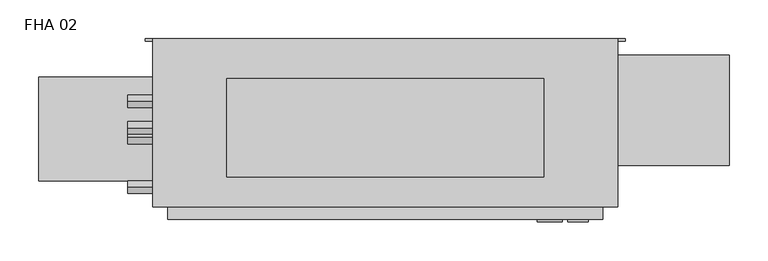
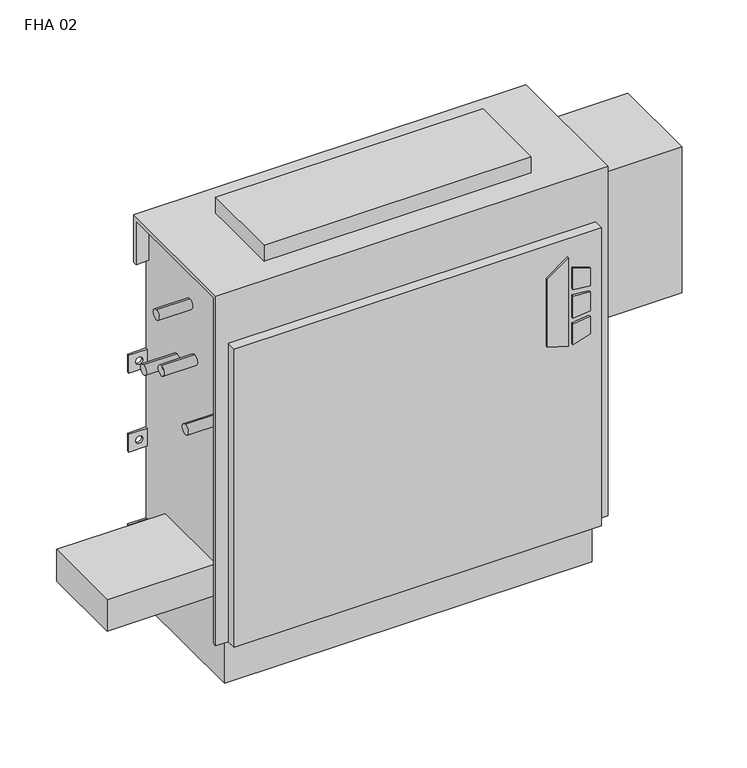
"""IFC4 building model written with IfcOpenShell, lengths in millimetres: proxy geometry, Vertical_Fan_Coil_Unit_-_FHA_-_IEC_-_4-Pipe_TS-FR_LH_2022 : FHA 02."""

from ifc_helpers import new_model, si_unit, point, frame, frame_2d, origin, place, context, project, spatial, polyline, circle_curve, trimmed, segment, composite_curve, outline, extrude, source, transform, mapped, element, save
from ifc_brep_helpers import plane_surface, revolved_surface, advanced_brep


def fha_02_802e25d1(model_context):
    return source(origin(), model_context, "Body", "SolidModel", [
        extrude(outline(polyline([(391.6086829, 347.7368862), (381.6606126, 379.9102728), (523.831537, 379.9102728), (500.8095309, 347.7368862), (391.6086829, 347.7368862)])), frame((0.0, 9.525, 0.0), z_axis=(0.0, 1.0, 0.0), x_axis=(0.0, 0.0, 1.0)), (0.0, 0.0, 1.0), 3.175),
        extrude(outline(polyline([(470.6079683, 386.6686058), (467.4055757, 412.75), (496.6344168, 412.75), (504.6988318, 386.6686058), (470.6079683, 386.6686058)])), frame((0.0, 9.525, 0.0), z_axis=(0.0, 1.0, 0.0), x_axis=(0.0, 0.0, 1.0)), (0.0, 0.0, 1.0), 3.175),
        extrude(outline(polyline([(418.7444414, 412.75), (415.0789404, 386.6686058), (381.6606126, 386.6686058), (390.2948498, 412.75), (418.7444414, 412.75)])), frame((0.0, 9.525, 0.0), z_axis=(0.0, 1.0, 0.0), x_axis=(0.0, 0.0, 1.0)), (0.0, 0.0, 1.0), 3.175),
        extrude(outline(polyline([(458.0596028, 412.75), (460.3414292, 386.6686058), (424.4038806, 386.6686058), (427.1451456, 412.75), (458.0596028, 412.75)])), frame((0.0, 9.525, 0.0), z_axis=(0.0, 1.0, 0.0), x_axis=(0.0, 0.0, 1.0)), (0.0, 0.0, 1.0), 3.175),
        extrude(outline(composite_curve([segment(trimmed(circle_curve(frame_2d((-190.5, 128.5875)), 9.525), [point((-200.025, 128.5875))], [point((-180.975, 128.5875))], False, "CARTESIAN"), True, "CONTINUOUS"), segment(trimmed(circle_curve(frame_2d((-190.5, 128.5875)), 9.525), [point((-180.975, 128.5875))], [point((-200.025, 128.5875))], False, "CARTESIAN"), True, "CONTINUOUS")], self_intersect=False)), frame((0.0, 0.0, 101.6), z_axis=(0.0, 0.0, 1.0), x_axis=(1.0, 0.0, 0.0)), (0.0, 0.0, 1.0), 25.4),
        extrude(outline(polyline([(-292.1, 61.9125), (-292.1, 195.2625), (-127.0, 195.2625), (-127.0, 61.9125), (-292.1, 61.9125)])), frame((0.0, 0.0, 127.0), z_axis=(0.0, 0.0, 1.0), x_axis=(1.0, 0.0, 0.0)), (0.0, 0.0, 1.0), 50.8),
        extrude(outline(polyline([(355.6, 193.675), (355.6, 66.675), (-50.8, 66.675), (-50.8, 193.675), (355.6, 193.675)])), frame((0.0, 0.0, 635.0), z_axis=(0.0, 0.0, 1.0), x_axis=(1.0, 0.0, 0.0)), (0.0, 0.0, 1.0), 25.4),
        extrude(outline(composite_curve([segment(trimmed(circle_curve(frame_2d((117.475, 472.44)), 7.9375), [point((117.475, 480.3775))], [point((117.475, 464.5025))], False, "CARTESIAN"), True, "CONTINUOUS"), segment(trimmed(circle_curve(frame_2d((117.475, 472.44)), 7.9375), [point((117.475, 464.5025))], [point((117.475, 480.3775))], False, "CARTESIAN"), True, "CONTINUOUS")], self_intersect=False)), frame((-177.8, 0.0, 0.0), z_axis=(1.0, 0.0, 0.0), x_axis=(0.0, 1.0, 0.0)), (0.0, 0.0, 1.0), 50.8),
        extrude(outline(composite_curve([segment(trimmed(circle_curve(frame_2d((164.0586, 445.897)), 7.9375), [point((164.0586, 453.8345))], [point((164.0586, 437.9595))], False, "CARTESIAN"), True, "CONTINUOUS"), segment(trimmed(circle_curve(frame_2d((164.0586, 445.897)), 7.9375), [point((164.0586, 437.9595))], [point((164.0586, 453.8345))], False, "CARTESIAN"), True, "CONTINUOUS")], self_intersect=False)), frame((-177.8, 0.0, 0.0), z_axis=(1.0, 0.0, 0.0), x_axis=(0.0, 1.0, 0.0)), (0.0, 0.0, 1.0), 50.8),
        extrude(outline(composite_curve([segment(trimmed(circle_curve(frame_2d((130.175, 554.99)), 7.9502), [point((130.175, 562.9402))], [point((130.175, 547.0398))], False, "CARTESIAN"), True, "CONTINUOUS"), segment(trimmed(circle_curve(frame_2d((130.175, 554.99)), 7.9502), [point((130.175, 547.0398))], [point((130.175, 562.9402))], False, "CARTESIAN"), True, "CONTINUOUS")], self_intersect=False)), frame((-177.8, 0.0, 0.0), z_axis=(1.0, 0.0, 0.0), x_axis=(0.0, 1.0, 0.0)), (0.0, 0.0, 1.0), 50.8),
        extrude(outline(composite_curve([segment(trimmed(circle_curve(frame_2d((53.975, 416.56)), 7.9502), [point((53.975, 424.5102))], [point((53.975, 408.6098))], False, "CARTESIAN"), True, "CONTINUOUS"), segment(trimmed(circle_curve(frame_2d((53.975, 416.56)), 7.9502), [point((53.975, 408.6098))], [point((53.975, 424.5102))], False, "CARTESIAN"), True, "CONTINUOUS")], self_intersect=False)), frame((-177.8, 0.0, 0.0), z_axis=(1.0, 0.0, 0.0), x_axis=(0.0, 1.0, 0.0)), (0.0, 0.0, 1.0), 50.8),
        extrude(outline(polyline([(593.725, 223.266), (593.725, 81.534), (431.8, 81.534), (431.8, 223.266), (593.725, 223.266)])), frame((0.0, 0.0, 349.25), z_axis=(0.0, 0.0, 1.0), x_axis=(1.0, 0.0, 0.0)), (0.0, 0.0, 1.0), 234.95),
        advanced_brep(
        [(450.85, 244.475, 635.0), (-146.05, 244.475, 635.0), (-146.05, 28.575, 635.0), (450.85, 28.575, 635.0), (-127.0, 244.475, 0.0), (431.8, 244.475, 0.0), (431.8, 38.1, 0.0), (-127.0, 38.1, 0.0), (450.85, 244.475, 558.8), (431.8, 244.475, 558.8), (431.8, 244.475, 414.3375), (460.375, 244.475, 414.3375), (460.375, 244.475, 385.7625), (431.8, 244.475, 385.7625), (431.8, 244.475, 287.3375), (460.375, 244.475, 287.3375), (460.375, 244.475, 258.7625), (431.8, 244.475, 258.7625), (431.8, 244.475, 141.2875), (460.375, 244.475, 141.2875), (460.375, 244.475, 112.7125), (431.8, 244.475, 112.7125), (-127.0, 244.475, 112.7125), (-155.575, 244.475, 112.7125), (-155.575, 244.475, 141.2875), (-127.0, 244.475, 141.2875), (-127.0, 244.475, 258.7625), (-155.575, 244.475, 258.7625), (-155.575, 244.475, 287.3375), (-127.0, 244.475, 287.3375), (-127.0, 244.475, 385.7625), (-155.575, 244.475, 385.7625), (-155.575, 244.475, 414.3375), (-127.0, 244.475, 414.3375), (-127.0, 244.475, 558.8), (-146.05, 244.475, 558.8), (450.0626, 244.475, 127.0), (438.9374, 244.475, 127.0), (-134.1374, 244.475, 127.0), (-145.2626, 244.475, 127.0), (450.0626, 244.475, 273.05), (438.9374, 244.475, 273.05), (-134.1374, 244.475, 273.05), (-145.2626, 244.475, 273.05), (450.0626, 244.475, 400.05), (438.9374, 244.475, 400.05), (-134.1374, 244.475, 400.05), (-145.2626, 244.475, 400.05), (-146.05, 238.125, 558.8), (-146.05, 238.125, 628.65), (-146.05, 34.925, 628.65), (-146.05, 34.925, 73.025), (-146.05, 28.575, 73.025), (431.8, 12.7, 552.45), (-127.0, 12.7, 552.45), (-127.0, 12.7, 73.025), (431.8, 12.7, 73.025), (450.85, 28.575, 73.025), (450.85, 34.925, 73.025), (450.85, 34.925, 628.65), (450.85, 238.125, 628.65), (450.85, 238.125, 558.8), (-127.0, 28.575, 73.025), (-127.0, 28.575, 552.45), (431.8, 28.575, 552.45), (431.8, 28.575, 73.025), (-127.0, 34.925, 73.025), (-127.0, 38.1, 73.025), (431.8, 38.1, 73.025), (431.8, 34.925, 73.025), (431.8, 241.3, 112.7125), (431.8, 241.3, 141.2875), (431.8, 241.3, 258.7625), (431.8, 241.3, 287.3375), (431.8, 241.3, 385.7625), (431.8, 241.3, 414.3375), (431.8, 238.125, 558.8), (431.8, 238.125, 628.65), (431.8, 34.925, 628.65), (-127.0, 34.925, 628.65), (-127.0, 238.125, 628.65), (-127.0, 238.125, 558.8), (-127.0, 241.3, 414.3375), (-127.0, 241.3, 385.7625), (-127.0, 241.3, 287.3375), (-127.0, 241.3, 258.7625), (-127.0, 241.3, 141.2875), (-127.0, 241.3, 112.7125), (460.375, 241.3, 112.7125), (460.375, 241.3, 141.2875), (438.9374, 241.3, 127.0), (450.0626, 241.3, 127.0), (460.375, 241.3, 258.7625), (460.375, 241.3, 287.3375), (438.9374, 241.3, 273.05), (450.0626, 241.3, 273.05), (460.375, 241.3, 385.7625), (460.375, 241.3, 414.3375), (438.9374, 241.3, 400.05), (450.0626, 241.3, 400.05), (-155.575, 241.3, 141.2875), (-155.575, 241.3, 112.7125), (-145.2626, 241.3, 127.0), (-134.1374, 241.3, 127.0), (-155.575, 241.3, 287.3375), (-155.575, 241.3, 258.7625), (-145.2626, 241.3, 273.05), (-134.1374, 241.3, 273.05), (-155.575, 241.3, 414.3375), (-155.575, 241.3, 385.7625), (-145.2626, 241.3, 400.05), (-134.1374, 241.3, 400.05)],
        [
            (0, 1),
            (1, 2),
            (2, 3),
            (3, 0),
            (4, 5),
            (5, 6),
            (6, 7),
            (7, 4),
            (0, 8),
            (8, 9),
            (9, 10),
            (10, 11),
            (11, 12),
            (12, 13),
            (13, 14),
            (14, 15),
            (15, 16),
            (16, 17),
            (17, 18),
            (18, 19),
            (19, 20),
            (20, 21),
            (21, 5),
            (4, 22),
            (22, 23),
            (23, 24),
            (24, 25),
            (25, 26),
            (26, 27),
            (27, 28),
            (28, 29),
            (29, 30),
            (30, 31),
            (31, 32),
            (32, 33),
            (33, 34),
            (34, 35),
            (35, 1),
            (36, 37, circle_curve(frame((444.5, 244.475, 127.0), z_axis=(0.0, -1.0, 0.0), x_axis=(-1.0, 0.0, 0.0)), 5.5626)),
            (37, 36, circle_curve(frame((444.5, 244.475, 127.0), z_axis=(0.0, -1.0, 0.0), x_axis=(-1.0, 0.0, 0.0)), 5.5626)),
            (38, 39, circle_curve(frame((-139.7, 244.475, 127.0), z_axis=(0.0, -1.0, 0.0), x_axis=(-1.0, 0.0, 0.0)), 5.5626)),
            (39, 38, circle_curve(frame((-139.7, 244.475, 127.0), z_axis=(0.0, -1.0, 0.0), x_axis=(-1.0, 0.0, 0.0)), 5.5626)),
            (40, 41, circle_curve(frame((444.5, 244.475, 273.05), z_axis=(0.0, -1.0, 0.0), x_axis=(-1.0, 0.0, 0.0)), 5.5626)),
            (41, 40, circle_curve(frame((444.5, 244.475, 273.05), z_axis=(0.0, -1.0, 0.0), x_axis=(-1.0, 0.0, 0.0)), 5.5626)),
            (42, 43, circle_curve(frame((-139.7, 244.475, 273.05), z_axis=(0.0, -1.0, 0.0), x_axis=(-1.0, 0.0, 0.0)), 5.5626)),
            (43, 42, circle_curve(frame((-139.7, 244.475, 273.05), z_axis=(0.0, -1.0, 0.0), x_axis=(-1.0, 0.0, 0.0)), 5.5626)),
            (44, 45, circle_curve(frame((444.5, 244.475, 400.05), z_axis=(0.0, -1.0, 0.0), x_axis=(-1.0, 0.0, 0.0)), 5.5626)),
            (45, 44, circle_curve(frame((444.5, 244.475, 400.05), z_axis=(0.0, -1.0, 0.0), x_axis=(-1.0, 0.0, 0.0)), 5.5626)),
            (46, 47, circle_curve(frame((-139.7, 244.475, 400.05), z_axis=(0.0, -1.0, 0.0), x_axis=(-1.0, 0.0, 0.0)), 5.5626)),
            (47, 46, circle_curve(frame((-139.7, 244.475, 400.05), z_axis=(0.0, -1.0, 0.0), x_axis=(-1.0, 0.0, 0.0)), 5.5626)),
            (35, 48),
            (48, 49),
            (49, 50),
            (50, 51),
            (51, 52),
            (52, 2),
            (53, 54),
            (54, 55),
            (55, 56),
            (56, 53),
            (3, 57),
            (57, 58),
            (58, 59),
            (59, 60),
            (60, 61),
            (61, 8),
            (52, 62),
            (62, 63),
            (63, 64),
            (64, 65),
            (65, 57),
            (53, 64),
            (63, 54),
            (55, 62),
            (51, 66),
            (66, 67),
            (67, 68),
            (68, 69),
            (69, 58),
            (65, 56),
            (6, 68),
            (67, 7),
            (21, 70),
            (70, 71),
            (71, 18),
            (17, 72),
            (72, 73),
            (73, 14),
            (13, 74),
            (74, 75),
            (75, 10),
            (9, 76),
            (76, 77),
            (77, 78),
            (78, 69),
            (66, 79),
            (79, 80),
            (80, 81),
            (81, 34),
            (33, 82),
            (82, 83),
            (83, 30),
            (29, 84),
            (84, 85),
            (85, 26),
            (25, 86),
            (86, 87),
            (87, 22),
            (76, 61),
            (60, 77),
            (78, 59),
            (50, 79),
            (81, 48),
            (80, 49),
            (70, 88),
            (88, 89),
            (89, 71),
            (90, 91, circle_curve(frame((444.5, 241.3, 127.0), z_axis=(0.0, 1.0, 0.0), x_axis=(-1.0, 0.0, 0.0)), 5.5626)),
            (91, 90, circle_curve(frame((444.5, 241.3, 127.0), z_axis=(0.0, 1.0, 0.0), x_axis=(-1.0, 0.0, 0.0)), 5.5626)),
            (92, 93),
            (93, 73),
            (72, 92),
            (94, 95, circle_curve(frame((444.5, 241.3, 273.05), z_axis=(0.0, 1.0, 0.0), x_axis=(-1.0, 0.0, 0.0)), 5.5626)),
            (95, 94, circle_curve(frame((444.5, 241.3, 273.05), z_axis=(0.0, 1.0, 0.0), x_axis=(-1.0, 0.0, 0.0)), 5.5626)),
            (96, 97),
            (97, 75),
            (74, 96),
            (98, 99, circle_curve(frame((444.5, 241.3, 400.05), z_axis=(0.0, 1.0, 0.0), x_axis=(-1.0, 0.0, 0.0)), 5.5626)),
            (99, 98, circle_curve(frame((444.5, 241.3, 400.05), z_axis=(0.0, 1.0, 0.0), x_axis=(-1.0, 0.0, 0.0)), 5.5626)),
            (100, 101),
            (101, 87),
            (86, 100),
            (102, 103, circle_curve(frame((-139.7, 241.3, 127.0), z_axis=(0.0, 1.0, 0.0), x_axis=(-1.0, 0.0, 0.0)), 5.5626)),
            (103, 102, circle_curve(frame((-139.7, 241.3, 127.0), z_axis=(0.0, 1.0, 0.0), x_axis=(-1.0, 0.0, 0.0)), 5.5626)),
            (84, 104),
            (104, 105),
            (105, 85),
            (106, 107, circle_curve(frame((-139.7, 241.3, 273.05), z_axis=(0.0, 1.0, 0.0), x_axis=(-1.0, 0.0, 0.0)), 5.5626)),
            (107, 106, circle_curve(frame((-139.7, 241.3, 273.05), z_axis=(0.0, 1.0, 0.0), x_axis=(-1.0, 0.0, 0.0)), 5.5626)),
            (108, 109),
            (109, 83),
            (82, 108),
            (110, 111, circle_curve(frame((-139.7, 241.3, 400.05), z_axis=(0.0, 1.0, 0.0), x_axis=(-1.0, 0.0, 0.0)), 5.5626)),
            (111, 110, circle_curve(frame((-139.7, 241.3, 400.05), z_axis=(0.0, 1.0, 0.0), x_axis=(-1.0, 0.0, 0.0)), 5.5626)),
            (89, 19),
            (88, 20),
            (16, 92),
            (93, 15),
            (12, 96),
            (97, 11),
            (24, 100),
            (101, 23),
            (105, 27),
            (104, 28),
            (32, 108),
            (109, 31),
            (90, 37),
            (36, 91),
            (102, 39),
            (38, 103),
            (94, 41),
            (40, 95),
            (106, 43),
            (42, 107),
            (98, 45),
            (44, 99),
            (110, 47),
            (46, 111),
        ],
        [
            plane_surface(frame((-146.05, 244.475, 635.0), z_axis=(0.0, 0.0, 1.0), x_axis=(-1.0, 0.0, 0.0))),
            plane_surface(frame((-146.05, 244.475, 0.0), z_axis=(0.0, 0.0, -1.0), x_axis=(1.0, 0.0, 0.0))),
            plane_surface(frame((450.85, 244.475, 635.0), z_axis=(0.0, 1.0, 0.0), x_axis=(0.0, 0.0, -1.0))),
            plane_surface(frame((-146.05, 244.475, 635.0), z_axis=(-1.0, 0.0, 0.0), x_axis=(0.0, 0.0, -1.0))),
            plane_surface(frame((-146.05, 12.7, 635.0), z_axis=(0.0, -1.0, 0.0), x_axis=(0.0, 0.0, -1.0))),
            plane_surface(frame((450.85, 12.7, 635.0), z_axis=(1.0, 0.0, 0.0), x_axis=(0.0, 0.0, -1.0))),
            plane_surface(frame((-146.05, 28.575, 635.0), z_axis=(0.0, -1.0, 0.0), x_axis=(1.0, 0.0, 0.0))),
            plane_surface(frame((-146.05, 28.575, 552.45), z_axis=(0.0, 0.0, 1.0), x_axis=(1.0, 0.0, 0.0))),
            plane_surface(frame((-146.05, 12.7, 73.025), z_axis=(0.0, 0.0, -1.0), x_axis=(1.0, 0.0, 0.0))),
            plane_surface(frame((-146.05, 38.1, 73.025), z_axis=(0.0, -1.0, 0.0), x_axis=(1.0, 0.0, 0.0))),
            plane_surface(frame((431.8, 28.575, 73.025), z_axis=(1.0, 0.0, 0.0), x_axis=(0.0, -1.0, 0.0))),
            plane_surface(frame((-127.0, 28.575, 552.45), z_axis=(-1.0, 0.0, 0.0), x_axis=(0.0, -1.0, 0.0))),
            plane_surface(frame((431.8, 244.475, 0.0), z_axis=(1.0, 0.0, 0.0), x_axis=(0.0, -1.0, 0.0))),
            plane_surface(frame((-127.0, 244.475, 73.025), z_axis=(-1.0, 0.0, 0.0), x_axis=(0.0, -1.0, 0.0))),
            plane_surface(frame((431.8, 238.125, 628.65), z_axis=(0.0, -1.0, 0.0), x_axis=(1.0, 0.0, 0.0))),
            plane_surface(frame((431.8, 238.125, 558.8), z_axis=(0.0, 0.0, -1.0), x_axis=(1.0, 0.0, 0.0))),
            plane_surface(frame((431.8, 34.925, 73.025), z_axis=(0.0, 1.0, 0.0), x_axis=(1.0, 0.0, 0.0))),
            plane_surface(frame((431.8, 34.925, 628.65), z_axis=(0.0, 0.0, -1.0), x_axis=(1.0, 0.0, 0.0))),
            plane_surface(frame((-127.0, 34.925, 628.65), z_axis=(0.0, 1.0, 0.0), x_axis=(-1.0, 0.0, 0.0))),
            plane_surface(frame((-127.0, 244.475, 558.8), z_axis=(0.0, 0.0, -1.0), x_axis=(-1.0, 0.0, 0.0))),
            plane_surface(frame((-127.0, 238.125, 558.8), z_axis=(0.0, -1.0, 0.0), x_axis=(-1.0, 0.0, 0.0))),
            plane_surface(frame((-127.0, 238.125, 628.65), z_axis=(0.0, 0.0, -1.0), x_axis=(-1.0, 0.0, 0.0))),
            plane_surface(frame((460.375, 241.3, 141.2875), z_axis=(0.0, -1.0, 0.0), x_axis=(-1.0, 0.0, 0.0))),
            plane_surface(frame((431.8, 244.475, 141.2875), z_axis=(0.0, 0.0, 1.0), x_axis=(0.0, -1.0, 0.0))),
            plane_surface(frame((460.375, 244.475, 141.2875), z_axis=(1.0, 0.0, 0.0), x_axis=(0.0, -1.0, 0.0))),
            plane_surface(frame((460.375, 244.475, 112.7125), z_axis=(0.0, 0.0, -1.0), x_axis=(0.0, -1.0, 0.0))),
            plane_surface(frame((460.375, 244.475, 258.7625), z_axis=(0.0, 0.0, -1.0), x_axis=(0.0, -1.0, 0.0))),
            plane_surface(frame((431.8, 244.475, 287.3375), z_axis=(0.0, 0.0, 1.0), x_axis=(0.0, -1.0, 0.0))),
            plane_surface(frame((460.375, 244.475, 287.3375), z_axis=(1.0, 0.0, 0.0), x_axis=(0.0, -1.0, 0.0))),
            plane_surface(frame((460.375, 244.475, 385.7625), z_axis=(0.0, 0.0, -1.0), x_axis=(0.0, -1.0, 0.0))),
            plane_surface(frame((431.8, 244.475, 414.3375), z_axis=(0.0, 0.0, 1.0), x_axis=(0.0, -1.0, 0.0))),
            plane_surface(frame((460.375, 244.475, 414.3375), z_axis=(1.0, 0.0, 0.0), x_axis=(0.0, -1.0, 0.0))),
            plane_surface(frame((-155.575, 244.475, 141.2875), z_axis=(0.0, 0.0, 1.0), x_axis=(0.0, -1.0, 0.0))),
            plane_surface(frame((-127.0, 244.475, 112.7125), z_axis=(0.0, 0.0, -1.0), x_axis=(0.0, -1.0, 0.0))),
            plane_surface(frame((-155.575, 244.475, 112.7125), z_axis=(-1.0, 0.0, 0.0), x_axis=(0.0, -1.0, 0.0))),
            plane_surface(frame((-127.0, 244.475, 258.7625), z_axis=(0.0, 0.0, -1.0), x_axis=(0.0, -1.0, 0.0))),
            plane_surface(frame((-155.575, 244.475, 258.7625), z_axis=(-1.0, 0.0, 0.0), x_axis=(0.0, -1.0, 0.0))),
            plane_surface(frame((-155.575, 244.475, 287.3375), z_axis=(0.0, 0.0, 1.0), x_axis=(0.0, -1.0, 0.0))),
            plane_surface(frame((-155.575, 244.475, 414.3375), z_axis=(0.0, 0.0, 1.0), x_axis=(0.0, -1.0, 0.0))),
            plane_surface(frame((-127.0, 244.475, 385.7625), z_axis=(0.0, 0.0, -1.0), x_axis=(0.0, -1.0, 0.0))),
            plane_surface(frame((-155.575, 244.475, 385.7625), z_axis=(-1.0, 0.0, 0.0), x_axis=(0.0, -1.0, 0.0))),
            revolved_surface(polyline([(438.9374, 241.3, 127.0), (438.9374, 244.475, 127.0)]), (444.5, 244.475, 127.0), (0.0, -1.0, 0.0)),
            revolved_surface(polyline([(-145.2626, 241.3, 127.0), (-145.2626, 244.475, 127.0)]), (-139.7, 244.475, 127.0), (0.0, -1.0, 0.0)),
            revolved_surface(polyline([(438.9374, 241.3, 273.05), (438.9374, 244.475, 273.05)]), (444.5, 244.475, 273.05), (0.0, -1.0, 0.0)),
            revolved_surface(polyline([(-145.2626, 241.3, 273.05), (-145.2626, 244.475, 273.05)]), (-139.7, 244.475, 273.05), (0.0, -1.0, 0.0)),
            revolved_surface(polyline([(438.9374, 241.3, 400.05), (438.9374, 244.475, 400.05)]), (444.5, 244.475, 400.05), (0.0, -1.0, 0.0)),
            revolved_surface(polyline([(-145.2626, 241.3, 400.05), (-145.2626, 244.475, 400.05)]), (-139.7, 244.475, 400.05), (0.0, -1.0, 0.0)),
        ],
        [
            (0, [[1, 2, 3, 4]]),
            (1, [[5, 6, 7, 8]]),
            (2, [[-1, 9, 10, 11, 12, 13, 14, 15, 16, 17, 18, 19, 20, 21, 22, 23, -5, 24, 25, 26, 27, 28, 29, 30, 31, 32, 33, 34, 35, 36, 37, 38], [39, 40], [41, 42], [43, 44], [45, 46], [47, 48], [49, 50]]),
            (3, [[-2, -38, 51, 52, 53, 54, 55, 56]]),
            (4, [[57, 58, 59, 60]]),
            (5, [[-4, 61, 62, 63, 64, 65, 66, -9]]),
            (6, [[-3, -56, 67, 68, 69, 70, 71, -61]]),
            (7, [[-57, 72, -69, 73]]),
            (8, [[-59, 74, -67, -55, 75, 76, 77, 78, 79, -62, -71, 80]]),
            (9, [[-7, 81, -77, 82]]),
            (10, [[-70, -72, -60, -80]]),
            (11, [[-68, -74, -58, -73]]),
            (12, [[-6, -23, 83, 84, 85, -19, 86, 87, 88, -15, 89, 90, 91, -11, 92, 93, 94, 95, -78, -81]]),
            (13, [[-8, -82, -76, 96, 97, 98, 99, -36, 100, 101, 102, -32, 103, 104, 105, -28, 106, 107, 108, -24]]),
            (14, [[-93, 109, -65, 110]]),
            (15, [[-92, -10, -66, -109]]),
            (16, [[-95, 111, -63, -79]]),
            (17, [[-94, -110, -64, -111]]),
            (18, [[-96, -75, -54, 112]]),
            (19, [[-99, 113, -51, -37]]),
            (20, [[-98, 114, -52, -113]]),
            (21, [[-97, -112, -53, -114]]),
            (22, [[115, 116, 117, -84], [118, 119]]),
            (22, [[120, 121, -87, 122], [123, 124]]),
            (22, [[125, 126, -90, 127], [128, 129]]),
            (22, [[130, 131, -107, 132], [133, 134]]),
            (22, [[135, 136, 137, -104], [138, 139]]),
            (22, [[140, 141, -101, 142], [143, 144]]),
            (23, [[-117, 145, -20, -85]]),
            (24, [[-116, 146, -21, -145]]),
            (25, [[-115, -83, -22, -146]]),
            (26, [[-122, -86, -18, 147]]),
            (27, [[-121, 148, -16, -88]]),
            (28, [[-120, -147, -17, -148]]),
            (29, [[-127, -89, -14, 149]]),
            (30, [[-126, 150, -12, -91]]),
            (31, [[-125, -149, -13, -150]]),
            (32, [[-132, -106, -27, 151]]),
            (33, [[-131, 152, -25, -108]]),
            (34, [[-130, -151, -26, -152]]),
            (35, [[-137, 153, -29, -105]]),
            (36, [[-136, 154, -30, -153]]),
            (37, [[-135, -103, -31, -154]]),
            (38, [[-142, -100, -35, 155]]),
            (39, [[-141, 156, -33, -102]]),
            (40, [[-140, -155, -34, -156]]),
            (41, [[157, -39, 158, -118]]),
            (41, [[-157, -119, -158, -40]]),
            (42, [[159, -41, 160, -133]]),
            (42, [[-159, -134, -160, -42]]),
            (43, [[161, -43, 162, -123]]),
            (43, [[-161, -124, -162, -44]]),
            (44, [[163, -45, 164, -138]]),
            (44, [[-163, -139, -164, -46]]),
            (45, [[165, -47, 166, -128]]),
            (45, [[-165, -129, -166, -48]]),
            (46, [[167, -49, 168, -143]]),
            (46, [[-167, -144, -168, -50]]),
        ],
    ),
    ])


if __name__ == "__main__":
    model = new_model("IFC4")
    model_context = context("Model", 3, world=origin())
    ifc_project = project(units=[si_unit("LENGTHUNIT", "METRE", prefix="MILLI")], contexts=[model_context])
    site = spatial("IfcSite", under=ifc_project)
    building = spatial("IfcBuilding", under=site)
    placement = place(None, origin())
    fha_02_shape = fha_02_802e25d1(model_context)
    element("IfcBuildingElementProxy", 1, Name="Vertical_Fan_Coil_Unit_-_FHA_-_IEC_-_4-Pipe_TS-FR_LH_2022 : FHA 02", ObjectType="Vertical_Fan_Coil_Unit_-_FHA_-_IEC_-_4-Pipe_TS-FR_LH_2022 : FHA 02", at=placement, inside=building, context=model_context, shape_type="MappedRepresentation", body=[
        mapped(fha_02_shape, transform((0.0, 0.0, 0.0), x_axis=(1.0, 0.0, 0.0), y_axis=(0.0, 1.0, 0.0), z_axis=(0.0, 0.0, 1.0))),
    ])
    save(model, "model.ifc")
